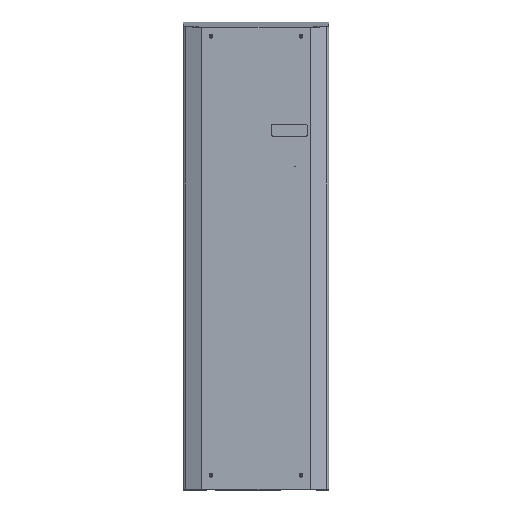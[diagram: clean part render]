
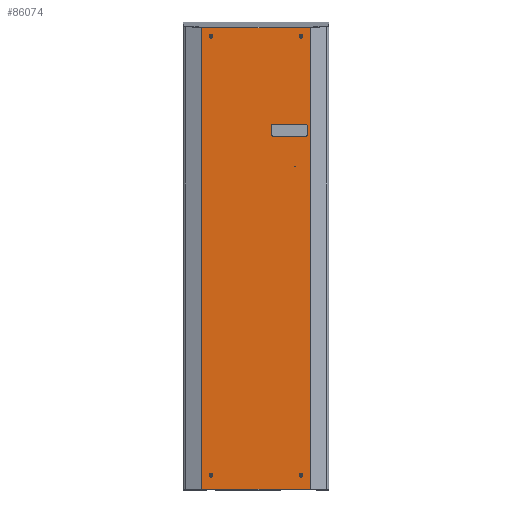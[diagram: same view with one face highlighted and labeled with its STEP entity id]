
A CAD part, top view. The second image highlights one B-rep face of the part: STEP entity #86074.
In plain terms, the highlighted planar face has unit normal (0, 0, 1).
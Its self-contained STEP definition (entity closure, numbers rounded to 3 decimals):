
#28097 = CARTESIAN_POINT ( 'NONE',  ( 180.841, 760.3, 140.5 ) ) ;
#28101 = DIRECTION ( 'NONE',  ( 0., -1., 0. ) ) ;
#29643 = CIRCLE ( 'NONE', #177702, 3.75 ) ;
#29684 = CIRCLE ( 'NONE', #177758, 3.75 ) ;
#29727 = CIRCLE ( 'NONE', #177789, 3.75 ) ;
#32425 = CARTESIAN_POINT ( 'NONE',  ( -146.25, -728., 140.5 ) ) ;
#32449 = CARTESIAN_POINT ( 'NONE',  ( 129.95, 300., 140.5 ) ) ;
#32472 = CARTESIAN_POINT ( 'NONE',  ( 146.25, -728., 140.5 ) ) ;
#32492 = CARTESIAN_POINT ( 'NONE',  ( 130.05, 300., 140.5 ) ) ;
#32508 = CARTESIAN_POINT ( 'NONE',  ( 153.75, -728., 140.5 ) ) ;
#32528 = CARTESIAN_POINT ( 'NONE',  ( 146.25, 732., 140.5 ) ) ;
#32547 = CARTESIAN_POINT ( 'NONE',  ( -153.75, 732., 140.5 ) ) ;
#32598 = CARTESIAN_POINT ( 'NONE',  ( 153.75, 732., 140.5 ) ) ;
#33839 = CARTESIAN_POINT ( 'NONE',  ( 180.841, 760.3, 140.5 ) ) ;
#34122 = CARTESIAN_POINT ( 'NONE',  ( -180.841, -775.1, 140.5 ) ) ;
#34692 = CARTESIAN_POINT ( 'NONE',  ( 150., 732., 140.5 ) ) ;
#34696 = DIRECTION ( 'NONE',  ( 0., 0., 1. ) ) ;
#34699 = DIRECTION ( 'NONE',  ( 1., 0., 0. ) ) ;
#34948 = CARTESIAN_POINT ( 'NONE',  ( -146.25, 732., 140.5 ) ) ;
#35922 = CARTESIAN_POINT ( 'NONE',  ( -153.75, -728., 140.5 ) ) ;
#35992 = CARTESIAN_POINT ( 'NONE',  ( 180.841, -775.1, 140.5 ) ) ;
#36094 = CARTESIAN_POINT ( 'NONE',  ( -180.841, 760.3, 140.5 ) ) ;
#51756 = EDGE_LOOP ( 'NONE', ( #113940, #113948 ) ) ;
#66377 = CARTESIAN_POINT ( 'NONE',  ( 130., 300., 140.5 ) ) ;
#66381 = DIRECTION ( 'NONE',  ( 0., 0., 1. ) ) ;
#66385 = DIRECTION ( 'NONE',  ( 1., 0., 0. ) ) ;
#67137 = AXIS2_PLACEMENT_3D ( 'NONE', #202138, #202140, #202142 ) ;
#67963 = FACE_BOUND ( 'NONE', #111250, .T. ) ;
#67971 = FACE_BOUND ( 'NONE', #110991, .T. ) ;
#67975 = FACE_BOUND ( 'NONE', #51756, .T. ) ;
#67979 = FACE_BOUND ( 'NONE', #110966, .T. ) ;
#67983 = FACE_BOUND ( 'NONE', #110963, .T. ) ;
#67987 = FACE_OUTER_BOUND ( 'NONE', #111220, .T. ) ;
#86074 = ADVANCED_FACE ( 'NONE', ( #67971, #67963, #67975, #67979, #67983, #67987 ), #202110, .F. ) ;
#93202 = EDGE_CURVE ( 'NONE', #176154, #176173, #129646, .T. ) ;
#93302 = EDGE_CURVE ( 'NONE', #180713, #177634, #130008, .T. ) ;
#93317 = EDGE_CURVE ( 'NONE', #180713, #177340, #130065, .T. ) ;
#93325 = EDGE_CURVE ( 'NONE', #177634, #180361, #130103, .T. ) ;
#93327 = EDGE_CURVE ( 'NONE', #176164, #176140, #130111, .T. ) ;
#93329 = EDGE_CURVE ( 'NONE', #176173, #176154, #130120, .T. ) ;
#93331 = EDGE_CURVE ( 'NONE', #176136, #180116, #130125, .T. ) ;
#93333 = EDGE_CURVE ( 'NONE', #176229, #176200, #130132, .T. ) ;
#93335 = EDGE_CURVE ( 'NONE', #178502, #176214, #130135, .T. ) ;
#93583 = EDGE_CURVE ( 'NONE', #176200, #176229, #29643, .T. ) ;
#93644 = EDGE_CURVE ( 'NONE', #176214, #178502, #29684, .T. ) ;
#93726 = EDGE_CURVE ( 'NONE', #180116, #176136, #29727, .T. ) ;
#108621 = CARTESIAN_POINT ( 'NONE',  ( -150., 732., 140.5 ) ) ;
#108623 = DIRECTION ( 'NONE',  ( 0., 0., 1. ) ) ;
#108625 = DIRECTION ( 'NONE',  ( 1., 0., 0. ) ) ;
#109112 = CARTESIAN_POINT ( 'NONE',  ( -150., -728., 140.5 ) ) ;
#109113 = DIRECTION ( 'NONE',  ( 0., 0., 1. ) ) ;
#109114 = DIRECTION ( 'NONE',  ( 1., 0., 0. ) ) ;
#110963 = EDGE_LOOP ( 'NONE', ( #114065, #113706 ) ) ;
#110966 = EDGE_LOOP ( 'NONE', ( #114076, #114075 ) ) ;
#110991 = EDGE_LOOP ( 'NONE', ( #114109, #113954 ) ) ;
#111220 = EDGE_LOOP ( 'NONE', ( #113771, #113785, #113692, #113642 ) ) ;
#111250 = EDGE_LOOP ( 'NONE', ( #113963, #113967 ) ) ;
#113642 = ORIENTED_EDGE ( 'NONE', *, *, #93302, .T. ) ;
#113692 = ORIENTED_EDGE ( 'NONE', *, *, #93317, .F. ) ;
#113706 = ORIENTED_EDGE ( 'NONE', *, *, #254334, .F. ) ;
#113771 = ORIENTED_EDGE ( 'NONE', *, *, #93325, .T. ) ;
#113785 = ORIENTED_EDGE ( 'NONE', *, *, #258116, .F. ) ;
#113940 = ORIENTED_EDGE ( 'NONE', *, *, #93331, .F. ) ;
#113948 = ORIENTED_EDGE ( 'NONE', *, *, #93726, .F. ) ;
#113954 = ORIENTED_EDGE ( 'NONE', *, *, #93644, .F. ) ;
#113963 = ORIENTED_EDGE ( 'NONE', *, *, #93333, .F. ) ;
#113967 = ORIENTED_EDGE ( 'NONE', *, *, #93583, .F. ) ;
#114065 = ORIENTED_EDGE ( 'NONE', *, *, #93327, .F. ) ;
#114075 = ORIENTED_EDGE ( 'NONE', *, *, #93202, .F. ) ;
#114076 = ORIENTED_EDGE ( 'NONE', *, *, #93329, .F. ) ;
#114109 = ORIENTED_EDGE ( 'NONE', *, *, #93335, .F. ) ;
#129646 = CIRCLE ( 'NONE', #177544, 3.75 ) ;
#129999 = VECTOR ( 'NONE', #224756, 1000. ) ;
#130008 = LINE ( 'NONE', #224688, #129999 ) ;
#130065 = LINE ( 'NONE', #202443, #130071 ) ;
#130071 = VECTOR ( 'NONE', #202447, 1000. ) ;
#130103 = LINE ( 'NONE', #202464, #130107 ) ;
#130107 = VECTOR ( 'NONE', #202466, 1000. ) ;
#130111 = CIRCLE ( 'NONE', #177592, 0.05 ) ;
#130120 = CIRCLE ( 'NONE', #177603, 3.75 ) ;
#130125 = CIRCLE ( 'NONE', #177609, 3.75 ) ;
#130132 = CIRCLE ( 'NONE', #177622, 3.75 ) ;
#130135 = CIRCLE ( 'NONE', #177626, 3.75 ) ;
#155271 = LINE ( 'NONE', #28097, #155281 ) ;
#155281 = VECTOR ( 'NONE', #28101, 1000. ) ;
#162308 = AXIS2_PLACEMENT_3D ( 'NONE', #66377, #66381, #66385 ) ;
#176136 = VERTEX_POINT ( 'NONE', #32425 ) ;
#176140 = VERTEX_POINT ( 'NONE', #32449 ) ;
#176154 = VERTEX_POINT ( 'NONE', #32472 ) ;
#176164 = VERTEX_POINT ( 'NONE', #32492 ) ;
#176173 = VERTEX_POINT ( 'NONE', #32508 ) ;
#176200 = VERTEX_POINT ( 'NONE', #32528 ) ;
#176214 = VERTEX_POINT ( 'NONE', #32547 ) ;
#176229 = VERTEX_POINT ( 'NONE', #32598 ) ;
#177340 = VERTEX_POINT ( 'NONE', #33839 ) ;
#177544 = AXIS2_PLACEMENT_3D ( 'NONE', #227939, #227941, #227945 ) ;
#177592 = AXIS2_PLACEMENT_3D ( 'NONE', #202506, #202507, #202508 ) ;
#177603 = AXIS2_PLACEMENT_3D ( 'NONE', #202522, #202524, #202526 ) ;
#177609 = AXIS2_PLACEMENT_3D ( 'NONE', #202532, #202533, #202535 ) ;
#177622 = AXIS2_PLACEMENT_3D ( 'NONE', #202548, #202550, #202552 ) ;
#177626 = AXIS2_PLACEMENT_3D ( 'NONE', #202560, #202562, #202564 ) ;
#177634 = VERTEX_POINT ( 'NONE', #34122 ) ;
#177702 = AXIS2_PLACEMENT_3D ( 'NONE', #34692, #34696, #34699 ) ;
#177758 = AXIS2_PLACEMENT_3D ( 'NONE', #108621, #108623, #108625 ) ;
#177789 = AXIS2_PLACEMENT_3D ( 'NONE', #109112, #109113, #109114 ) ;
#178502 = VERTEX_POINT ( 'NONE', #34948 ) ;
#180116 = VERTEX_POINT ( 'NONE', #35922 ) ;
#180361 = VERTEX_POINT ( 'NONE', #35992 ) ;
#180713 = VERTEX_POINT ( 'NONE', #36094 ) ;
#202110 = PLANE ( 'NONE',  #67137 ) ;
#202138 = CARTESIAN_POINT ( 'NONE',  ( -181.248, 760.3, 140.5 ) ) ;
#202140 = DIRECTION ( 'NONE',  ( 0., 0., -1. ) ) ;
#202142 = DIRECTION ( 'NONE',  ( -1., 0., 0. ) ) ;
#202443 = CARTESIAN_POINT ( 'NONE',  ( -181.248, 760.3, 140.5 ) ) ;
#202447 = DIRECTION ( 'NONE',  ( 1., 0., 0. ) ) ;
#202464 = CARTESIAN_POINT ( 'NONE',  ( -180.841, -775.1, 140.5 ) ) ;
#202466 = DIRECTION ( 'NONE',  ( 1., 0., 0. ) ) ;
#202506 = CARTESIAN_POINT ( 'NONE',  ( 130., 300., 140.5 ) ) ;
#202507 = DIRECTION ( 'NONE',  ( 0., 0., 1. ) ) ;
#202508 = DIRECTION ( 'NONE',  ( 1., 0., 0. ) ) ;
#202522 = CARTESIAN_POINT ( 'NONE',  ( 150., -728., 140.5 ) ) ;
#202524 = DIRECTION ( 'NONE',  ( 0., 0., 1. ) ) ;
#202526 = DIRECTION ( 'NONE',  ( 1., 0., 0. ) ) ;
#202532 = CARTESIAN_POINT ( 'NONE',  ( -150., -728., 140.5 ) ) ;
#202533 = DIRECTION ( 'NONE',  ( 0., 0., 1. ) ) ;
#202535 = DIRECTION ( 'NONE',  ( 1., 0., 0. ) ) ;
#202548 = CARTESIAN_POINT ( 'NONE',  ( 150., 732., 140.5 ) ) ;
#202550 = DIRECTION ( 'NONE',  ( 0., 0., 1. ) ) ;
#202552 = DIRECTION ( 'NONE',  ( 1., 0., 0. ) ) ;
#202560 = CARTESIAN_POINT ( 'NONE',  ( -150., 732., 140.5 ) ) ;
#202562 = DIRECTION ( 'NONE',  ( 0., 0., 1. ) ) ;
#202564 = DIRECTION ( 'NONE',  ( 1., 0., 0. ) ) ;
#224688 = CARTESIAN_POINT ( 'NONE',  ( -180.841, 760.3, 140.5 ) ) ;
#224756 = DIRECTION ( 'NONE',  ( 0., -1., 0. ) ) ;
#227939 = CARTESIAN_POINT ( 'NONE',  ( 150., -728., 140.5 ) ) ;
#227941 = DIRECTION ( 'NONE',  ( 0., 0., 1. ) ) ;
#227945 = DIRECTION ( 'NONE',  ( 1., 0., 0. ) ) ;
#228902 = CIRCLE ( 'NONE', #162308, 0.05 ) ;
#254334 = EDGE_CURVE ( 'NONE', #176140, #176164, #228902, .T. ) ;
#258116 = EDGE_CURVE ( 'NONE', #177340, #180361, #155271, .T. ) ;
